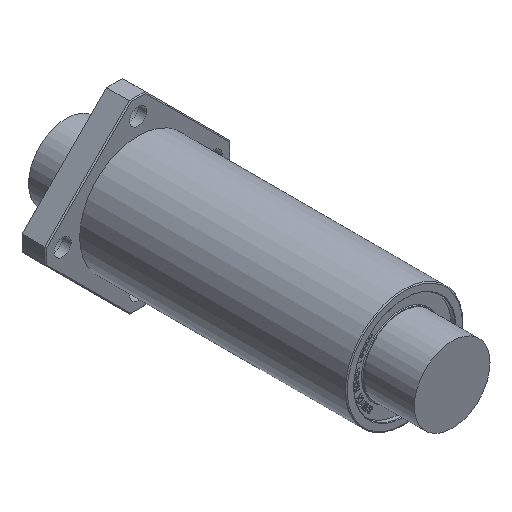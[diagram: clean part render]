
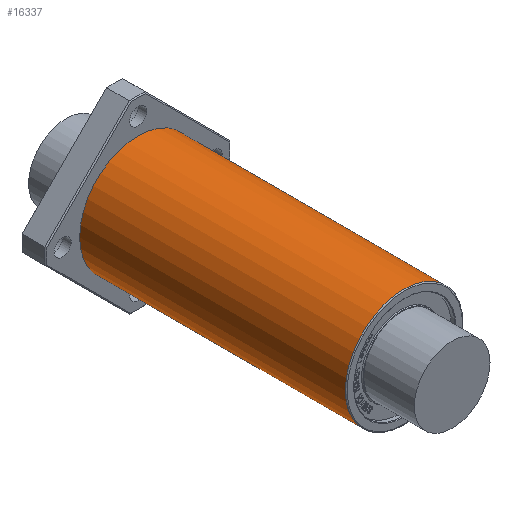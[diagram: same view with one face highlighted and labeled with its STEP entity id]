
A CAD part, isometric view. The second image highlights one B-rep face of the part: STEP entity #16337.
In plain terms, the highlighted cylindrical face has radius 31 mm (diameter 62 mm), a full revolution.
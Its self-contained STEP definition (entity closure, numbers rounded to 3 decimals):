
#2143=CYLINDRICAL_SURFACE('',#16713,31.);
#2265=CIRCLE('',#16445,31.);
#2266=CIRCLE('',#16446,31.);
#2293=CIRCLE('',#16714,31.);
#2294=CIRCLE('',#16715,31.);
#2295=CIRCLE('',#16716,31.);
#3155=FACE_OUTER_BOUND('',#4077,.T.);
#4077=EDGE_LOOP('',(#15185,#15186,#15187,#15188,#15189,#15190,#15191));
#5243=LINE('',#29327,#6403);
#6403=VECTOR('',#18593,31.);
#6481=VERTEX_POINT('',#18850);
#6482=VERTEX_POINT('',#18851);
#8016=VERTEX_POINT('',#29322);
#8017=VERTEX_POINT('',#29323);
#8018=VERTEX_POINT('',#29325);
#8117=EDGE_CURVE('',#6481,#6482,#2265,.T.);
#8118=EDGE_CURVE('',#6482,#6481,#2266,.T.);
#10413=EDGE_CURVE('',#8016,#8017,#2293,.T.);
#10414=EDGE_CURVE('',#8018,#8016,#2294,.T.);
#10415=EDGE_CURVE('',#8018,#6482,#5243,.T.);
#10416=EDGE_CURVE('',#8017,#8018,#2295,.T.);
#15185=ORIENTED_EDGE('',*,*,#10413,.F.);
#15186=ORIENTED_EDGE('',*,*,#10414,.F.);
#15187=ORIENTED_EDGE('',*,*,#10415,.T.);
#15188=ORIENTED_EDGE('',*,*,#8118,.T.);
#15189=ORIENTED_EDGE('',*,*,#8117,.T.);
#15190=ORIENTED_EDGE('',*,*,#10415,.F.);
#15191=ORIENTED_EDGE('',*,*,#10416,.F.);
#16337=ADVANCED_FACE('',(#3155),#2143,.T.);
#16445=AXIS2_PLACEMENT_3D('',#18852,#16927,#16928);
#16446=AXIS2_PLACEMENT_3D('',#18853,#16929,#16930);
#16713=AXIS2_PLACEMENT_3D('',#29321,#18587,#18588);
#16714=AXIS2_PLACEMENT_3D('',#29324,#18589,#18590);
#16715=AXIS2_PLACEMENT_3D('',#29326,#18591,#18592);
#16716=AXIS2_PLACEMENT_3D('',#29328,#18594,#18595);
#16927=DIRECTION('center_axis',(0.,-1.,0.));
#16928=DIRECTION('ref_axis',(1.,0.,0.));
#16929=DIRECTION('center_axis',(0.,-1.,0.));
#16930=DIRECTION('ref_axis',(1.,0.,0.));
#18587=DIRECTION('center_axis',(0.,-1.,0.));
#18588=DIRECTION('ref_axis',(1.,0.,0.));
#18589=DIRECTION('center_axis',(0.,-1.,0.));
#18590=DIRECTION('ref_axis',(1.,0.,0.));
#18591=DIRECTION('center_axis',(0.,-1.,0.));
#18592=DIRECTION('ref_axis',(1.,0.,0.));
#18593=DIRECTION('',(0.,1.,0.));
#18594=DIRECTION('center_axis',(0.,-1.,0.));
#18595=DIRECTION('ref_axis',(1.,0.,0.));
#18850=CARTESIAN_POINT('',(31.,64.,0.));
#18851=CARTESIAN_POINT('',(-31.,64.,0.));
#18852=CARTESIAN_POINT('Origin',(0.,64.,0.));
#18853=CARTESIAN_POINT('Origin',(0.,64.,0.));
#29321=CARTESIAN_POINT('Origin',(0.,0.,0.));
#29322=CARTESIAN_POINT('',(31.,-76.5,0.));
#29323=CARTESIAN_POINT('',(0.,-76.5,31.));
#29324=CARTESIAN_POINT('Origin',(0.,-76.5,0.));
#29325=CARTESIAN_POINT('',(-31.,-76.5,0.));
#29326=CARTESIAN_POINT('Origin',(0.,-76.5,0.));
#29327=CARTESIAN_POINT('',(-31.,0.,0.));
#29328=CARTESIAN_POINT('Origin',(0.,-76.5,0.));
